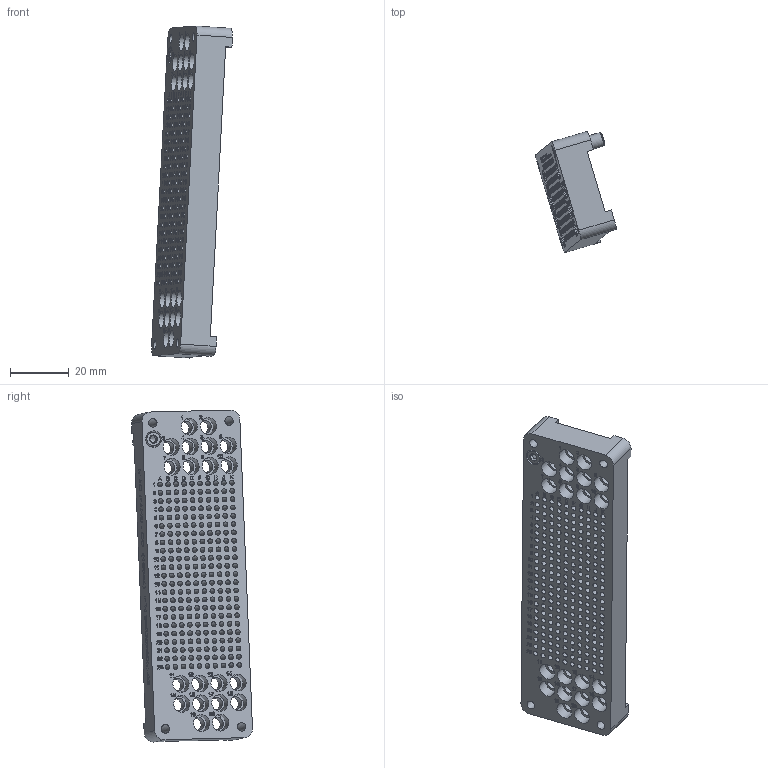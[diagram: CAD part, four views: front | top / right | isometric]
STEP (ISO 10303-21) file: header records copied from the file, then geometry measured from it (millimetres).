
FILE_DESCRIPTION((''),'2;1');
FILE_NAME('C:\old_Drawings\shrinkwrapped website .stp files\30220230M-03-STP.stp','2011-11-03T13:06:38',('GaryRobinson'),(''),'Autodesk Inventor 2011','Autodesk Inventor 2011','');
FILE_SCHEMA(('AUTOMOTIVE_DESIGN { 1 0 10303 214 1 1 1 1 }'));
Length unit declared in the file: inch
Products named in the file (1): 30220230M-03-STP
Bounding box: 27.47 x 41.04 x 112.63 mm (x, y, z)
Surface area: 27724.5 mm2 (no closed solid volume)
Topology: 0 solids, 3 shells, 2278 faces, 5546 edges, 3698 vertices
Faces by surface type: plane 1006, bspline 726, cylinder 541, cone 5
Full cylindrical faces by diameter (mm): 1.651 x230, 2.159 x1, 2.438 x230, 2.946 x4, 3.175 x1, 4.318 x20, 4.648 x1, 4.763 x1, 4.877 x1, 5.563 x1, 5.715 x40
Entity records: 72356 total; most frequent: CARTESIAN_POINT 21444, ORIENTED_EDGE 10008, DIRECTION 7732, EDGE_CURVE 5004, EDGE_LOOP 3749, VERTEX_POINT 3691, AXIS2_PLACEMENT_3D 2643, VECTOR 2446
